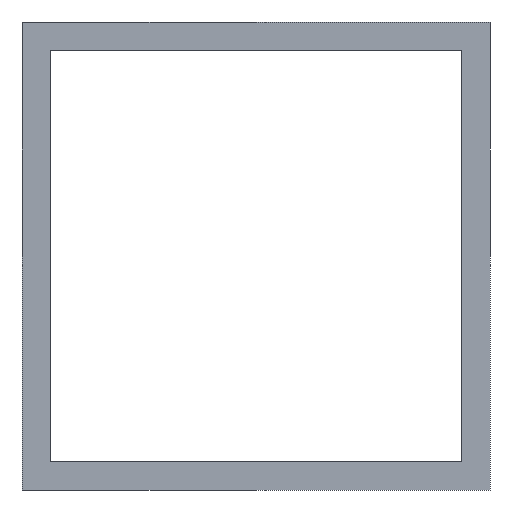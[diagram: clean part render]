
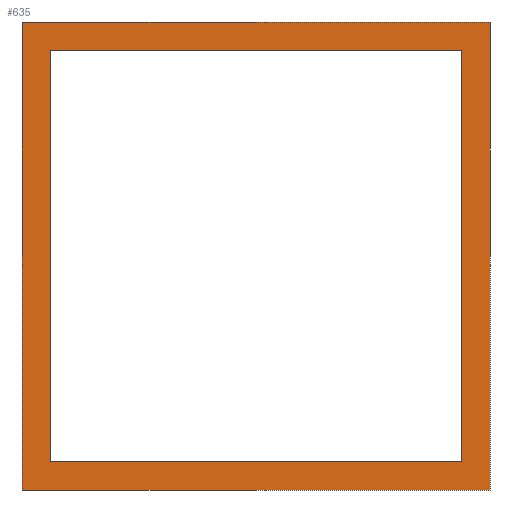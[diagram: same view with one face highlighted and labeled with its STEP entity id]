
A CAD part, front view. The second image highlights one B-rep face of the part: STEP entity #635.
In plain terms, the highlighted planar face has unit normal (0, -1, 0).
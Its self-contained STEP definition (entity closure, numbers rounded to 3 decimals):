
#22 = VERTEX_POINT('',#23);
#23 = CARTESIAN_POINT('',(750.,-890.,1285.));
#32 = PLANE('',#33);
#33 = AXIS2_PLACEMENT_3D('',#34,#35,#36);
#34 = CARTESIAN_POINT('',(750.,-890.,1285.));
#35 = DIRECTION('',(0.,0.,-1.));
#36 = DIRECTION('',(1.,0.,0.));
#44 = PLANE('',#45);
#45 = AXIS2_PLACEMENT_3D('',#46,#47,#48);
#46 = CARTESIAN_POINT('',(750.,-890.,1185.));
#47 = DIRECTION('',(1.,0.,0.));
#48 = DIRECTION('',(0.,0.,1.));
#85 = VERTEX_POINT('',#86);
#86 = CARTESIAN_POINT('',(850.,-890.,1285.));
#100 = PLANE('',#101);
#101 = AXIS2_PLACEMENT_3D('',#102,#103,#104);
#102 = CARTESIAN_POINT('',(850.,-890.,1285.));
#103 = DIRECTION('',(-1.,0.,0.));
#104 = DIRECTION('',(0.,0.,-1.));
#112 = EDGE_CURVE('',#22,#85,#113,.T.);
#113 = SURFACE_CURVE('',#114,(#118,#125),.PCURVE_S1.);
#114 = LINE('',#115,#116);
#115 = CARTESIAN_POINT('',(750.,-890.,1285.));
#116 = VECTOR('',#117,1.);
#117 = DIRECTION('',(1.,0.,0.));
#118 = PCURVE('',#32,#119);
#119 = DEFINITIONAL_REPRESENTATION('',(#120),#124);
#120 = LINE('',#121,#122);
#121 = CARTESIAN_POINT('',(0.,0.));
#122 = VECTOR('',#123,1.);
#123 = DIRECTION('',(1.,0.));
#124 = ( GEOMETRIC_REPRESENTATION_CONTEXT(2) 
PARAMETRIC_REPRESENTATION_CONTEXT() REPRESENTATION_CONTEXT('2D SPACE',''
  ) );
#125 = PCURVE('',#126,#131);
#126 = PLANE('',#127);
#127 = AXIS2_PLACEMENT_3D('',#128,#129,#130);
#128 = CARTESIAN_POINT('',(800.,-890.,1235.));
#129 = DIRECTION('',(0.,1.,0.));
#130 = DIRECTION('',(0.,-0.,1.));
#131 = DEFINITIONAL_REPRESENTATION('',(#132),#136);
#132 = LINE('',#133,#134);
#133 = CARTESIAN_POINT('',(50.,-50.));
#134 = VECTOR('',#135,1.);
#135 = DIRECTION('',(0.,1.));
#136 = ( GEOMETRIC_REPRESENTATION_CONTEXT(2) 
PARAMETRIC_REPRESENTATION_CONTEXT() REPRESENTATION_CONTEXT('2D SPACE',''
  ) );
#166 = VERTEX_POINT('',#167);
#167 = CARTESIAN_POINT('',(850.,-890.,1185.));
#181 = PLANE('',#182);
#182 = AXIS2_PLACEMENT_3D('',#183,#184,#185);
#183 = CARTESIAN_POINT('',(850.,-890.,1185.));
#184 = DIRECTION('',(0.,-0.,1.));
#185 = DIRECTION('',(-1.,0.,0.));
#193 = EDGE_CURVE('',#85,#166,#194,.T.);
#194 = SURFACE_CURVE('',#195,(#199,#206),.PCURVE_S1.);
#195 = LINE('',#196,#197);
#196 = CARTESIAN_POINT('',(850.,-890.,1285.));
#197 = VECTOR('',#198,1.);
#198 = DIRECTION('',(0.,0.,-1.));
#199 = PCURVE('',#100,#200);
#200 = DEFINITIONAL_REPRESENTATION('',(#201),#205);
#201 = LINE('',#202,#203);
#202 = CARTESIAN_POINT('',(0.,-0.));
#203 = VECTOR('',#204,1.);
#204 = DIRECTION('',(1.,0.));
#205 = ( GEOMETRIC_REPRESENTATION_CONTEXT(2) 
PARAMETRIC_REPRESENTATION_CONTEXT() REPRESENTATION_CONTEXT('2D SPACE',''
  ) );
#206 = PCURVE('',#126,#207);
#207 = DEFINITIONAL_REPRESENTATION('',(#208),#212);
#208 = LINE('',#209,#210);
#209 = CARTESIAN_POINT('',(50.,50.));
#210 = VECTOR('',#211,1.);
#211 = DIRECTION('',(-1.,0.));
#212 = ( GEOMETRIC_REPRESENTATION_CONTEXT(2) 
PARAMETRIC_REPRESENTATION_CONTEXT() REPRESENTATION_CONTEXT('2D SPACE',''
  ) );
#242 = VERTEX_POINT('',#243);
#243 = CARTESIAN_POINT('',(750.,-890.,1185.));
#264 = EDGE_CURVE('',#166,#242,#265,.T.);
#265 = SURFACE_CURVE('',#266,(#270,#277),.PCURVE_S1.);
#266 = LINE('',#267,#268);
#267 = CARTESIAN_POINT('',(850.,-890.,1185.));
#268 = VECTOR('',#269,1.);
#269 = DIRECTION('',(-1.,0.,0.));
#270 = PCURVE('',#181,#271);
#271 = DEFINITIONAL_REPRESENTATION('',(#272),#276);
#272 = LINE('',#273,#274);
#273 = CARTESIAN_POINT('',(0.,0.));
#274 = VECTOR('',#275,1.);
#275 = DIRECTION('',(1.,0.));
#276 = ( GEOMETRIC_REPRESENTATION_CONTEXT(2) 
PARAMETRIC_REPRESENTATION_CONTEXT() REPRESENTATION_CONTEXT('2D SPACE',''
  ) );
#277 = PCURVE('',#126,#278);
#278 = DEFINITIONAL_REPRESENTATION('',(#279),#283);
#279 = LINE('',#280,#281);
#280 = CARTESIAN_POINT('',(-50.,50.));
#281 = VECTOR('',#282,1.);
#282 = DIRECTION('',(0.,-1.));
#283 = ( GEOMETRIC_REPRESENTATION_CONTEXT(2) 
PARAMETRIC_REPRESENTATION_CONTEXT() REPRESENTATION_CONTEXT('2D SPACE',''
  ) );
#311 = EDGE_CURVE('',#242,#22,#312,.T.);
#312 = SURFACE_CURVE('',#313,(#317,#324),.PCURVE_S1.);
#313 = LINE('',#314,#315);
#314 = CARTESIAN_POINT('',(750.,-890.,1185.));
#315 = VECTOR('',#316,1.);
#316 = DIRECTION('',(0.,0.,1.));
#317 = PCURVE('',#44,#318);
#318 = DEFINITIONAL_REPRESENTATION('',(#319),#323);
#319 = LINE('',#320,#321);
#320 = CARTESIAN_POINT('',(0.,0.));
#321 = VECTOR('',#322,1.);
#322 = DIRECTION('',(1.,0.));
#323 = ( GEOMETRIC_REPRESENTATION_CONTEXT(2) 
PARAMETRIC_REPRESENTATION_CONTEXT() REPRESENTATION_CONTEXT('2D SPACE',''
  ) );
#324 = PCURVE('',#126,#325);
#325 = DEFINITIONAL_REPRESENTATION('',(#326),#330);
#326 = LINE('',#327,#328);
#327 = CARTESIAN_POINT('',(-50.,-50.));
#328 = VECTOR('',#329,1.);
#329 = DIRECTION('',(1.,0.));
#330 = ( GEOMETRIC_REPRESENTATION_CONTEXT(2) 
PARAMETRIC_REPRESENTATION_CONTEXT() REPRESENTATION_CONTEXT('2D SPACE',''
  ) );
#336 = VERTEX_POINT('',#337);
#337 = CARTESIAN_POINT('',(756.,-890.,1191.));
#346 = PLANE('',#347);
#347 = AXIS2_PLACEMENT_3D('',#348,#349,#350);
#348 = CARTESIAN_POINT('',(756.,-890.,1191.));
#349 = DIRECTION('',(1.,0.,0.));
#350 = DIRECTION('',(0.,0.,1.));
#358 = PLANE('',#359);
#359 = AXIS2_PLACEMENT_3D('',#360,#361,#362);
#360 = CARTESIAN_POINT('',(844.,-890.,1191.));
#361 = DIRECTION('',(0.,-0.,1.));
#362 = DIRECTION('',(-1.,0.,0.));
#394 = VERTEX_POINT('',#395);
#395 = CARTESIAN_POINT('',(756.,-890.,1279.));
#409 = PLANE('',#410);
#410 = AXIS2_PLACEMENT_3D('',#411,#412,#413);
#411 = CARTESIAN_POINT('',(756.,-890.,1279.));
#412 = DIRECTION('',(0.,0.,-1.));
#413 = DIRECTION('',(1.,0.,0.));
#421 = EDGE_CURVE('',#336,#394,#422,.T.);
#422 = SURFACE_CURVE('',#423,(#427,#434),.PCURVE_S1.);
#423 = LINE('',#424,#425);
#424 = CARTESIAN_POINT('',(756.,-890.,1191.));
#425 = VECTOR('',#426,1.);
#426 = DIRECTION('',(0.,0.,1.));
#427 = PCURVE('',#346,#428);
#428 = DEFINITIONAL_REPRESENTATION('',(#429),#433);
#429 = LINE('',#430,#431);
#430 = CARTESIAN_POINT('',(0.,0.));
#431 = VECTOR('',#432,1.);
#432 = DIRECTION('',(1.,0.));
#433 = ( GEOMETRIC_REPRESENTATION_CONTEXT(2) 
PARAMETRIC_REPRESENTATION_CONTEXT() REPRESENTATION_CONTEXT('2D SPACE',''
  ) );
#434 = PCURVE('',#126,#435);
#435 = DEFINITIONAL_REPRESENTATION('',(#436),#440);
#436 = LINE('',#437,#438);
#437 = CARTESIAN_POINT('',(-44.,-44.));
#438 = VECTOR('',#439,1.);
#439 = DIRECTION('',(1.,0.));
#440 = ( GEOMETRIC_REPRESENTATION_CONTEXT(2) 
PARAMETRIC_REPRESENTATION_CONTEXT() REPRESENTATION_CONTEXT('2D SPACE',''
  ) );
#446 = VERTEX_POINT('',#447);
#447 = CARTESIAN_POINT('',(844.,-890.,1191.));
#463 = PLANE('',#464);
#464 = AXIS2_PLACEMENT_3D('',#465,#466,#467);
#465 = CARTESIAN_POINT('',(844.,-890.,1279.));
#466 = DIRECTION('',(-1.,0.,0.));
#467 = DIRECTION('',(0.,0.,-1.));
#497 = EDGE_CURVE('',#446,#336,#498,.T.);
#498 = SURFACE_CURVE('',#499,(#503,#510),.PCURVE_S1.);
#499 = LINE('',#500,#501);
#500 = CARTESIAN_POINT('',(844.,-890.,1191.));
#501 = VECTOR('',#502,1.);
#502 = DIRECTION('',(-1.,0.,0.));
#503 = PCURVE('',#358,#504);
#504 = DEFINITIONAL_REPRESENTATION('',(#505),#509);
#505 = LINE('',#506,#507);
#506 = CARTESIAN_POINT('',(0.,0.));
#507 = VECTOR('',#508,1.);
#508 = DIRECTION('',(1.,0.));
#509 = ( GEOMETRIC_REPRESENTATION_CONTEXT(2) 
PARAMETRIC_REPRESENTATION_CONTEXT() REPRESENTATION_CONTEXT('2D SPACE',''
  ) );
#510 = PCURVE('',#126,#511);
#511 = DEFINITIONAL_REPRESENTATION('',(#512),#516);
#512 = LINE('',#513,#514);
#513 = CARTESIAN_POINT('',(-44.,44.));
#514 = VECTOR('',#515,1.);
#515 = DIRECTION('',(0.,-1.));
#516 = ( GEOMETRIC_REPRESENTATION_CONTEXT(2) 
PARAMETRIC_REPRESENTATION_CONTEXT() REPRESENTATION_CONTEXT('2D SPACE',''
  ) );
#522 = VERTEX_POINT('',#523);
#523 = CARTESIAN_POINT('',(844.,-890.,1279.));
#568 = EDGE_CURVE('',#522,#446,#569,.T.);
#569 = SURFACE_CURVE('',#570,(#574,#581),.PCURVE_S1.);
#570 = LINE('',#571,#572);
#571 = CARTESIAN_POINT('',(844.,-890.,1279.));
#572 = VECTOR('',#573,1.);
#573 = DIRECTION('',(0.,0.,-1.));
#574 = PCURVE('',#463,#575);
#575 = DEFINITIONAL_REPRESENTATION('',(#576),#580);
#576 = LINE('',#577,#578);
#577 = CARTESIAN_POINT('',(0.,-0.));
#578 = VECTOR('',#579,1.);
#579 = DIRECTION('',(1.,0.));
#580 = ( GEOMETRIC_REPRESENTATION_CONTEXT(2) 
PARAMETRIC_REPRESENTATION_CONTEXT() REPRESENTATION_CONTEXT('2D SPACE',''
  ) );
#581 = PCURVE('',#126,#582);
#582 = DEFINITIONAL_REPRESENTATION('',(#583),#587);
#583 = LINE('',#584,#585);
#584 = CARTESIAN_POINT('',(44.,44.));
#585 = VECTOR('',#586,1.);
#586 = DIRECTION('',(-1.,0.));
#587 = ( GEOMETRIC_REPRESENTATION_CONTEXT(2) 
PARAMETRIC_REPRESENTATION_CONTEXT() REPRESENTATION_CONTEXT('2D SPACE',''
  ) );
#615 = EDGE_CURVE('',#394,#522,#616,.T.);
#616 = SURFACE_CURVE('',#617,(#621,#628),.PCURVE_S1.);
#617 = LINE('',#618,#619);
#618 = CARTESIAN_POINT('',(756.,-890.,1279.));
#619 = VECTOR('',#620,1.);
#620 = DIRECTION('',(1.,0.,0.));
#621 = PCURVE('',#409,#622);
#622 = DEFINITIONAL_REPRESENTATION('',(#623),#627);
#623 = LINE('',#624,#625);
#624 = CARTESIAN_POINT('',(0.,0.));
#625 = VECTOR('',#626,1.);
#626 = DIRECTION('',(1.,0.));
#627 = ( GEOMETRIC_REPRESENTATION_CONTEXT(2) 
PARAMETRIC_REPRESENTATION_CONTEXT() REPRESENTATION_CONTEXT('2D SPACE',''
  ) );
#628 = PCURVE('',#126,#629);
#629 = DEFINITIONAL_REPRESENTATION('',(#630),#634);
#630 = LINE('',#631,#632);
#631 = CARTESIAN_POINT('',(44.,-44.));
#632 = VECTOR('',#633,1.);
#633 = DIRECTION('',(0.,1.));
#634 = ( GEOMETRIC_REPRESENTATION_CONTEXT(2) 
PARAMETRIC_REPRESENTATION_CONTEXT() REPRESENTATION_CONTEXT('2D SPACE',''
  ) );
#635 = ADVANCED_FACE('',(#636,#642),#126,.F.);
#636 = FACE_BOUND('',#637,.F.);
#637 = EDGE_LOOP('',(#638,#639,#640,#641));
#638 = ORIENTED_EDGE('',*,*,#112,.T.);
#639 = ORIENTED_EDGE('',*,*,#193,.T.);
#640 = ORIENTED_EDGE('',*,*,#264,.T.);
#641 = ORIENTED_EDGE('',*,*,#311,.T.);
#642 = FACE_BOUND('',#643,.F.);
#643 = EDGE_LOOP('',(#644,#645,#646,#647));
#644 = ORIENTED_EDGE('',*,*,#421,.F.);
#645 = ORIENTED_EDGE('',*,*,#497,.F.);
#646 = ORIENTED_EDGE('',*,*,#568,.F.);
#647 = ORIENTED_EDGE('',*,*,#615,.F.);
